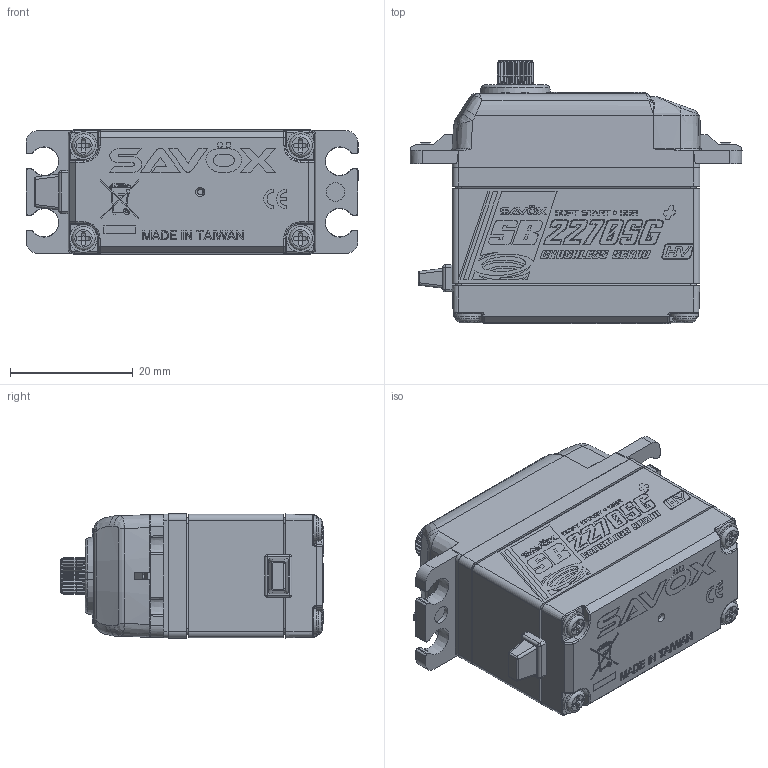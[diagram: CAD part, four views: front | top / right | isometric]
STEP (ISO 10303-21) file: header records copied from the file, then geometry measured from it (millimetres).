
FILE_DESCRIPTION (( 'STEP AP214' ), '1' );
FILE_NAME ('SB-2270SG+_3D??.STEP', '2025-04-15T12:35:46', ( '' ), ( '' ), 'SwSTEP 2.0', 'SolidWorks 2024', '' );
FILE_SCHEMA (( 'AUTOMOTIVE_DESIGN' ));
Length unit declared in the file: millimetre
Products named in the file (1): SB-2270SG+_3D零件
Bounding box: 54 x 42.8 x 20.2 mm (x, y, z)
Volume: 29944.8 mm3; surface area: 7060.2 mm2
Topology: 1 solids, 9 shells, 1334 faces, 5143 edges, 4018 vertices
Faces by surface type: plane 712, cylinder 335, bspline 174, cone 113
Full cylindrical faces by diameter (mm): 0.307 x1, 0.547 x1, 2.5 x1, 3 x2, 3.8 x4, 4.5 x4, 6.1 x1
Entity records: 76527 total; most frequent: CARTESIAN_POINT 20137, ORIENTED_EDGE 10196, DIRECTION 6816, EDGE_CURVE 5098, VERTEX_POINT 4009, VECTOR 2994, LINE 2994, AXIS2_PLACEMENT_3D 1911
